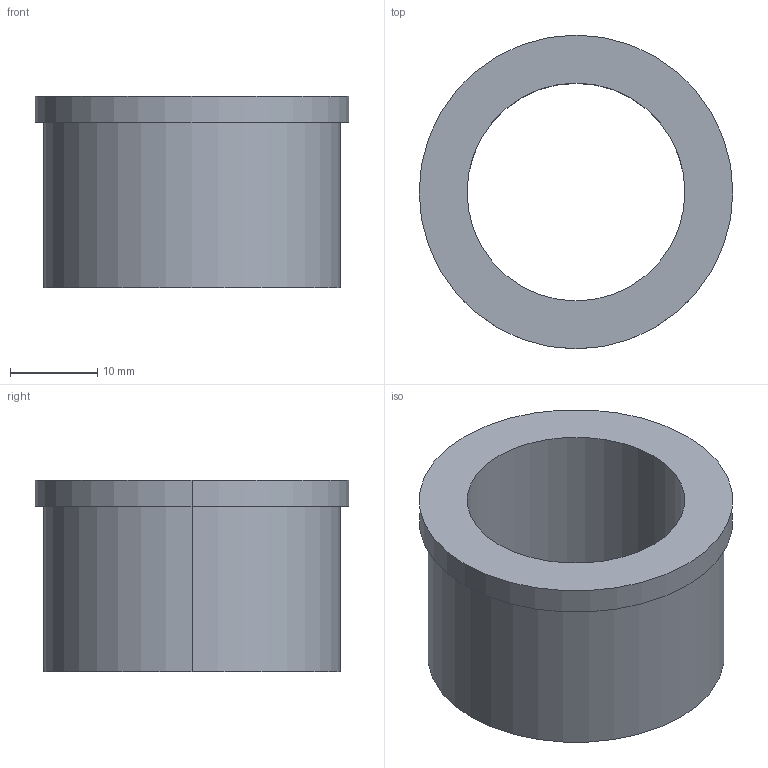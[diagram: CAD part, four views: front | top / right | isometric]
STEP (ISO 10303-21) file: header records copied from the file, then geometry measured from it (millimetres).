
FILE_DESCRIPTION(/* description */ (''),/* implementation_level */ '2;1');
FILE_NAME(/* name */ '3d_tghz25-22_00354_r00.stp',/* time_stamp */ '2011-01-10T14:09:01+09:00',/* author */ ('MISUMI'),/* organization */ (''),/* preprocessor_version */ 'ST-DEVELOPER v11',/* originating_system */ 'UGS - NX 5.0',/* authorisation */ '');
FILE_SCHEMA (('CONFIG_CONTROL_DESIGN'));
Length unit declared in the file: millimetre
Products named in the file (1): 3d_tghz25-22_00354_r00
Bounding box: 36 x 36 x 22 mm (x, y, z)
Volume: 9504.9 mm3; surface area: 5150.6 mm2
Topology: 1 solids, 1 shells, 9 faces, 18 edges, 12 vertices
Faces by surface type: cylinder 6, plane 3
Entity records: 334 total; most frequent: DIRECTION 50, CARTESIAN_POINT 40, ORIENTED_EDGE 36, AXIS2_PLACEMENT_3D 22, EDGE_CURVE 18, EDGE_LOOP 12, CIRCLE 12, VERTEX_POINT 12
